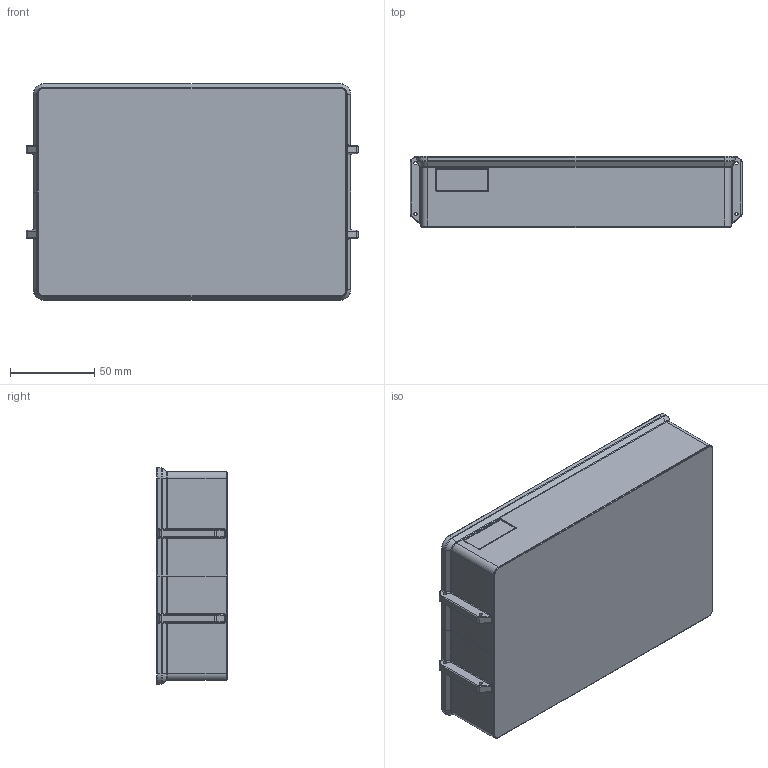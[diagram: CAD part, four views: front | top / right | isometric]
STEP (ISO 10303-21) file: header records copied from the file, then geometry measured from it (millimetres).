
FILE_DESCRIPTION (( 'STEP AP214' ), '1' );
FILE_NAME ('Tiered Storage Box 180x120x40 6 Cell Var 3.STEP', '2024-06-06T19:22:41', ( '' ), ( '' ), 'SwSTEP 2.0', 'SolidWorks 2022', '' );
FILE_SCHEMA (( 'AUTOMOTIVE_DESIGN' ));
Length unit declared in the file: millimetre
Products named in the file (1): Tiered Storage Box 180x120x40 6 Cell Var 3
Bounding box: 197 x 42 x 128.4 mm (x, y, z)
Volume: 128540.5 mm3; surface area: 130785.8 mm2
Topology: 1 solids, 1 shells, 502 faces, 1158 edges, 625 vertices
Faces by surface type: cylinder 218, plane 110, torus 90, bspline 52, sphere 20, cone 12
Entity records: 15088 total; most frequent: CARTESIAN_POINT 3976, DIRECTION 2488, ORIENTED_EDGE 2264, EDGE_CURVE 1132, AXIS2_PLACEMENT_3D 1001, VERTEX_POINT 625, CIRCLE 550, EDGE_LOOP 511
